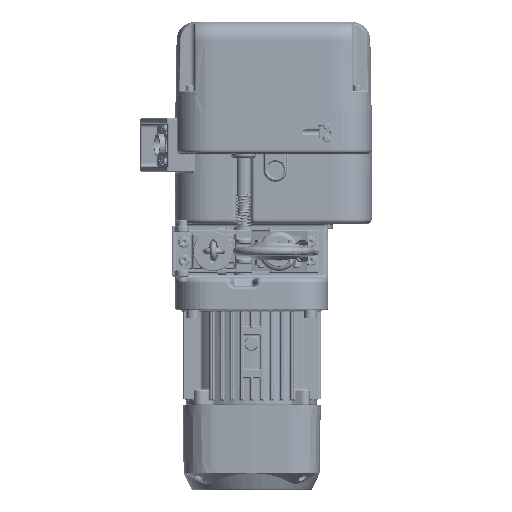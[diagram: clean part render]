
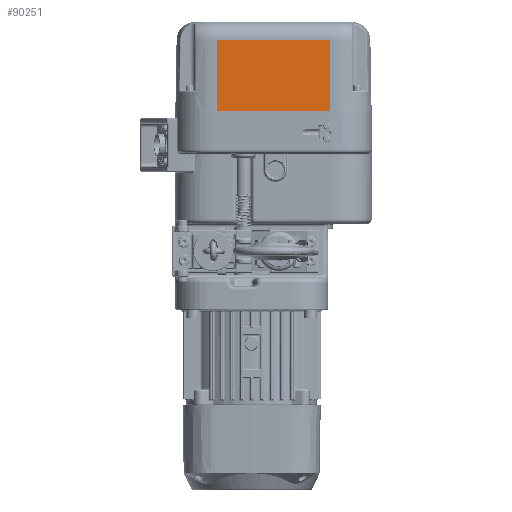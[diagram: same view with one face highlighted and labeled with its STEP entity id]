
A CAD part, front view. The second image highlights one B-rep face of the part: STEP entity #90251.
In plain terms, the highlighted planar face has unit normal (0, -1, 0.018).
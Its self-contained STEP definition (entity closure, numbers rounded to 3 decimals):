
#3075 = ORIENTED_EDGE ( 'NONE', *, *, #166410, .T. ) ;
#7549 = DIRECTION ( 'NONE',  ( -1., 0., 0. ) ) ;
#9899 = CARTESIAN_POINT ( 'NONE',  ( 0., -105.5, 0. ) ) ;
#14689 = CARTESIAN_POINT ( 'NONE',  ( -71.394, -103.939, 89.401 ) ) ;
#18052 = EDGE_LOOP ( 'NONE', ( #66897, #3075, #25822, #96923 ) ) ;
#25822 = ORIENTED_EDGE ( 'NONE', *, *, #168616, .T. ) ;
#30909 = VECTOR ( 'NONE', #77175, 1000. ) ;
#36502 = DIRECTION ( 'NONE',  ( 0., -0.017, -1. ) ) ;
#53712 = VERTEX_POINT ( 'NONE', #159414 ) ;
#65396 = LINE ( 'NONE', #79700, #177990 ) ;
#66897 = ORIENTED_EDGE ( 'NONE', *, *, #130405, .F. ) ;
#69163 = FACE_OUTER_BOUND ( 'NONE', #18052, .T. ) ;
#77175 = DIRECTION ( 'NONE',  ( 0., -0.017, -1. ) ) ;
#79051 = LINE ( 'NONE', #149360, #30909 ) ;
#79700 = CARTESIAN_POINT ( 'NONE',  ( 0., -103.939, 89.401 ) ) ;
#84867 = LINE ( 'NONE', #9899, #120638 ) ;
#85305 = CARTESIAN_POINT ( 'NONE',  ( -71.394, -105.5, 0. ) ) ;
#90170 = VECTOR ( 'NONE', #36502, 1000. ) ;
#90251 = ADVANCED_FACE ( 'NONE', ( #69163 ), #185973, .T. ) ;
#95698 = EDGE_CURVE ( 'NONE', #53712, #176939, #84867, .T. ) ;
#96923 = ORIENTED_EDGE ( 'NONE', *, *, #95698, .F. ) ;
#97700 = DIRECTION ( 'NONE',  ( 0., -1., 0.017 ) ) ;
#102327 = CARTESIAN_POINT ( 'NONE',  ( 71.394, -103.939, 89.401 ) ) ;
#104852 = VERTEX_POINT ( 'NONE', #102327 ) ;
#120182 = LINE ( 'NONE', #166620, #90170 ) ;
#120638 = VECTOR ( 'NONE', #129455, 1000. ) ;
#129455 = DIRECTION ( 'NONE',  ( -1., 0., 0. ) ) ;
#130405 = EDGE_CURVE ( 'NONE', #104852, #53712, #79051, .T. ) ;
#131617 = AXIS2_PLACEMENT_3D ( 'NONE', #154680, #97700, #185037 ) ;
#149360 = CARTESIAN_POINT ( 'NONE',  ( 71.394, -105.5, 0. ) ) ;
#154680 = CARTESIAN_POINT ( 'NONE',  ( 0., -105.5, 0. ) ) ;
#159414 = CARTESIAN_POINT ( 'NONE',  ( 71.394, -105.5, 0. ) ) ;
#166410 = EDGE_CURVE ( 'NONE', #104852, #179966, #65396, .T. ) ;
#166620 = CARTESIAN_POINT ( 'NONE',  ( -71.394, -105.5, 0. ) ) ;
#168616 = EDGE_CURVE ( 'NONE', #179966, #176939, #120182, .T. ) ;
#176939 = VERTEX_POINT ( 'NONE', #85305 ) ;
#177990 = VECTOR ( 'NONE', #7549, 1000. ) ;
#179966 = VERTEX_POINT ( 'NONE', #14689 ) ;
#185037 = DIRECTION ( 'NONE',  ( 0., -0.017, -1. ) ) ;
#185973 = PLANE ( 'NONE',  #131617 ) ;
